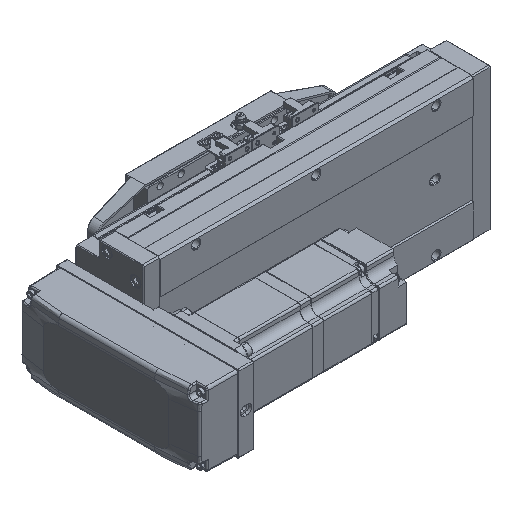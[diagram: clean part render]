
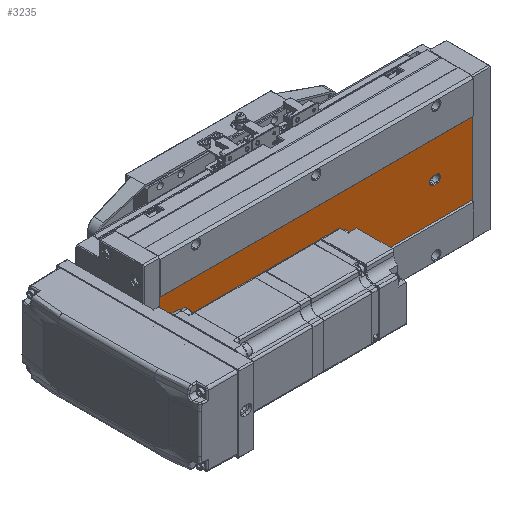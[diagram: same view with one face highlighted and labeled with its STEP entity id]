
A CAD part, isometric view. The second image highlights one B-rep face of the part: STEP entity #3235.
In plain terms, the highlighted planar face has unit normal (0, -1, 0).
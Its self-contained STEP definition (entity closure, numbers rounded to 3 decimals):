
#865 = EDGE_CURVE ( 'NONE', #13276, #61527, #35413, .T. ) ;
#1112 = CARTESIAN_POINT ( 'NONE',  ( -39.892, -52.848, 30. ) ) ;
#1860 = DIRECTION ( 'NONE',  ( 0., 0., -1. ) ) ;
#2080 = VERTEX_POINT ( 'NONE', #35105 ) ;
#2632 = ORIENTED_EDGE ( 'NONE', *, *, #10945, .F. ) ;
#2837 = AXIS2_PLACEMENT_3D ( 'NONE', #1112, #43708, #38776 ) ;
#2853 = VERTEX_POINT ( 'NONE', #47771 ) ;
#3235 = ADVANCED_FACE ( 'NONE', ( #15197, #51362, #4911, #31984 ), #32083, .F. ) ;
#3446 = VERTEX_POINT ( 'NONE', #65790 ) ;
#4183 = VECTOR ( 'NONE', #9547, 1000. ) ;
#4911 = FACE_BOUND ( 'NONE', #49029, .T. ) ;
#5097 = CARTESIAN_POINT ( 'NONE',  ( -9.892, -52.848, 261. ) ) ;
#5984 = CIRCLE ( 'NONE', #2837, 3.5 ) ;
#9275 = ORIENTED_EDGE ( 'NONE', *, *, #25512, .T. ) ;
#9547 = DIRECTION ( 'NONE',  ( 1., 0., 0. ) ) ;
#9901 = AXIS2_PLACEMENT_3D ( 'NONE', #63680, #15090, #52793 ) ;
#10593 = CARTESIAN_POINT ( 'NONE',  ( -69.892, -52.848, 261. ) ) ;
#10850 = DIRECTION ( 'NONE',  ( 0., 0., 1. ) ) ;
#10945 = EDGE_CURVE ( 'NONE', #3446, #55958, #18615, .T. ) ;
#11089 = LINE ( 'NONE', #34314, #65141 ) ;
#11503 = EDGE_CURVE ( 'NONE', #2853, #50751, #59023, .T. ) ;
#11629 = VECTOR ( 'NONE', #49685, 1000. ) ;
#11884 = VERTEX_POINT ( 'NONE', #68112 ) ;
#12526 = EDGE_CURVE ( 'NONE', #61527, #11884, #15724, .T. ) ;
#13276 = VERTEX_POINT ( 'NONE', #70000 ) ;
#13381 = AXIS2_PLACEMENT_3D ( 'NONE', #46541, #57093, #62581 ) ;
#13480 = VERTEX_POINT ( 'NONE', #54634 ) ;
#15090 = DIRECTION ( 'NONE',  ( 0., 1., 0. ) ) ;
#15189 = VERTEX_POINT ( 'NONE', #44014 ) ;
#15197 = FACE_BOUND ( 'NONE', #31463, .T. ) ;
#15724 = CIRCLE ( 'NONE', #19861, 3.5 ) ;
#16031 = ORIENTED_EDGE ( 'NONE', *, *, #19199, .T. ) ;
#16882 = VECTOR ( 'NONE', #26239, 1000. ) ;
#18615 = LINE ( 'NONE', #50386, #4183 ) ;
#19199 = EDGE_CURVE ( 'NONE', #22032, #15189, #5984, .T. ) ;
#19585 = CARTESIAN_POINT ( 'NONE',  ( -39.892, -52.848, 32. ) ) ;
#19861 = AXIS2_PLACEMENT_3D ( 'NONE', #19585, #35835, #63670 ) ;
#21192 = EDGE_LOOP ( 'NONE', ( #9275, #58655, #2632, #67723 ) ) ;
#21206 = ORIENTED_EDGE ( 'NONE', *, *, #27692, .T. ) ;
#21346 = DIRECTION ( 'NONE',  ( 0., 0., 1. ) ) ;
#21769 = LINE ( 'NONE', #44262, #11629 ) ;
#22032 = VERTEX_POINT ( 'NONE', #57031 ) ;
#22055 = VECTOR ( 'NONE', #28980, 1000. ) ;
#22219 = AXIS2_PLACEMENT_3D ( 'NONE', #32120, #42976, #10850 ) ;
#22350 = ORIENTED_EDGE ( 'NONE', *, *, #12526, .T. ) ;
#24634 = CARTESIAN_POINT ( 'NONE',  ( -39.892, -52.848, 234.5 ) ) ;
#25407 = EDGE_CURVE ( 'NONE', #50751, #2853, #26692, .T. ) ;
#25512 = EDGE_CURVE ( 'NONE', #66800, #2080, #28338, .T. ) ;
#25772 = CARTESIAN_POINT ( 'NONE',  ( -43.392, -52.848, 261. ) ) ;
#26239 = DIRECTION ( 'NONE',  ( 0., 0., 1. ) ) ;
#26692 = CIRCLE ( 'NONE', #27289, 3.5 ) ;
#27008 = DIRECTION ( 'NONE',  ( 1., 0., 0. ) ) ;
#27220 = ORIENTED_EDGE ( 'NONE', *, *, #54080, .T. ) ;
#27289 = AXIS2_PLACEMENT_3D ( 'NONE', #41866, #42320, #21346 ) ;
#27692 = EDGE_CURVE ( 'NONE', #11884, #22032, #64308, .T. ) ;
#28034 = CARTESIAN_POINT ( 'NONE',  ( -43.392, -52.848, 32. ) ) ;
#28283 = CIRCLE ( 'NONE', #22219, 3.5 ) ;
#28338 = LINE ( 'NONE', #52669, #68030 ) ;
#28980 = DIRECTION ( 'NONE',  ( 0., 0., -1. ) ) ;
#29495 = EDGE_CURVE ( 'NONE', #3446, #66800, #21769, .T. ) ;
#29965 = DIRECTION ( 'NONE',  ( 0., 1., 0. ) ) ;
#30189 = CARTESIAN_POINT ( 'NONE',  ( -39.892, -52.848, 30. ) ) ;
#31463 = EDGE_LOOP ( 'NONE', ( #22350, #21206, #16031, #27220, #65701 ) ) ;
#31984 = FACE_OUTER_BOUND ( 'NONE', #21192, .T. ) ;
#32083 = PLANE ( 'NONE',  #36859 ) ;
#32120 = CARTESIAN_POINT ( 'NONE',  ( -39.892, -52.848, 231. ) ) ;
#34314 = CARTESIAN_POINT ( 'NONE',  ( -9.892, -52.848, 261. ) ) ;
#35105 = CARTESIAN_POINT ( 'NONE',  ( -9.892, -52.848, 0. ) ) ;
#35413 = LINE ( 'NONE', #25772, #16882 ) ;
#35835 = DIRECTION ( 'NONE',  ( 0., 1., 0. ) ) ;
#36859 = AXIS2_PLACEMENT_3D ( 'NONE', #10593, #48399, #53765 ) ;
#38776 = DIRECTION ( 'NONE',  ( 0., 0., 1. ) ) ;
#39585 = VERTEX_POINT ( 'NONE', #24634 ) ;
#41156 = CIRCLE ( 'NONE', #9901, 3.5 ) ;
#41866 = CARTESIAN_POINT ( 'NONE',  ( -39.892, -52.848, 131. ) ) ;
#42320 = DIRECTION ( 'NONE',  ( 0., 1., 0. ) ) ;
#42976 = DIRECTION ( 'NONE',  ( 0., 1., 0. ) ) ;
#43708 = DIRECTION ( 'NONE',  ( 0., 1., 0. ) ) ;
#44014 = CARTESIAN_POINT ( 'NONE',  ( -39.892, -52.848, 26.5 ) ) ;
#44262 = CARTESIAN_POINT ( 'NONE',  ( -69.892, -52.848, 261. ) ) ;
#46541 = CARTESIAN_POINT ( 'NONE',  ( -39.892, -52.848, 131. ) ) ;
#46559 = ORIENTED_EDGE ( 'NONE', *, *, #25407, .T. ) ;
#47166 = CIRCLE ( 'NONE', #54645, 3.5 ) ;
#47194 = EDGE_CURVE ( 'NONE', #13480, #39585, #41156, .T. ) ;
#47771 = CARTESIAN_POINT ( 'NONE',  ( -39.892, -52.848, 134.5 ) ) ;
#47854 = ORIENTED_EDGE ( 'NONE', *, *, #47194, .T. ) ;
#48399 = DIRECTION ( 'NONE',  ( 0., 1., 0. ) ) ;
#48627 = EDGE_CURVE ( 'NONE', #39585, #13480, #28283, .T. ) ;
#49029 = EDGE_LOOP ( 'NONE', ( #47854, #60175 ) ) ;
#49685 = DIRECTION ( 'NONE',  ( 0., 0., -1. ) ) ;
#50386 = CARTESIAN_POINT ( 'NONE',  ( -69.892, -52.848, 261. ) ) ;
#50751 = VERTEX_POINT ( 'NONE', #61064 ) ;
#51347 = ORIENTED_EDGE ( 'NONE', *, *, #11503, .T. ) ;
#51362 = FACE_BOUND ( 'NONE', #60341, .T. ) ;
#52534 = EDGE_CURVE ( 'NONE', #55958, #2080, #11089, .T. ) ;
#52669 = CARTESIAN_POINT ( 'NONE',  ( -69.892, -52.848, 0. ) ) ;
#52793 = DIRECTION ( 'NONE',  ( 0., 0., 1. ) ) ;
#53765 = DIRECTION ( 'NONE',  ( 0., 0., 1. ) ) ;
#54080 = EDGE_CURVE ( 'NONE', #15189, #13276, #47166, .T. ) ;
#54634 = CARTESIAN_POINT ( 'NONE',  ( -39.892, -52.848, 227.5 ) ) ;
#54645 = AXIS2_PLACEMENT_3D ( 'NONE', #30189, #29965, #56822 ) ;
#55092 = CARTESIAN_POINT ( 'NONE',  ( -69.892, -52.848, 0. ) ) ;
#55958 = VERTEX_POINT ( 'NONE', #5097 ) ;
#56066 = CARTESIAN_POINT ( 'NONE',  ( -36.392, -52.848, 261. ) ) ;
#56822 = DIRECTION ( 'NONE',  ( 0., 0., 1. ) ) ;
#57031 = CARTESIAN_POINT ( 'NONE',  ( -36.392, -52.848, 30. ) ) ;
#57093 = DIRECTION ( 'NONE',  ( 0., 1., 0. ) ) ;
#58655 = ORIENTED_EDGE ( 'NONE', *, *, #52534, .F. ) ;
#59023 = CIRCLE ( 'NONE', #13381, 3.5 ) ;
#60175 = ORIENTED_EDGE ( 'NONE', *, *, #48627, .T. ) ;
#60341 = EDGE_LOOP ( 'NONE', ( #46559, #51347 ) ) ;
#61064 = CARTESIAN_POINT ( 'NONE',  ( -39.892, -52.848, 127.5 ) ) ;
#61527 = VERTEX_POINT ( 'NONE', #28034 ) ;
#62581 = DIRECTION ( 'NONE',  ( 0., 0., 1. ) ) ;
#63670 = DIRECTION ( 'NONE',  ( 0., 0., 1. ) ) ;
#63680 = CARTESIAN_POINT ( 'NONE',  ( -39.892, -52.848, 231. ) ) ;
#64308 = LINE ( 'NONE', #56066, #22055 ) ;
#65141 = VECTOR ( 'NONE', #1860, 1000. ) ;
#65701 = ORIENTED_EDGE ( 'NONE', *, *, #865, .T. ) ;
#65790 = CARTESIAN_POINT ( 'NONE',  ( -69.892, -52.848, 261. ) ) ;
#66800 = VERTEX_POINT ( 'NONE', #55092 ) ;
#67723 = ORIENTED_EDGE ( 'NONE', *, *, #29495, .T. ) ;
#68030 = VECTOR ( 'NONE', #27008, 1000. ) ;
#68112 = CARTESIAN_POINT ( 'NONE',  ( -36.392, -52.848, 32. ) ) ;
#70000 = CARTESIAN_POINT ( 'NONE',  ( -43.392, -52.848, 30. ) ) ;
